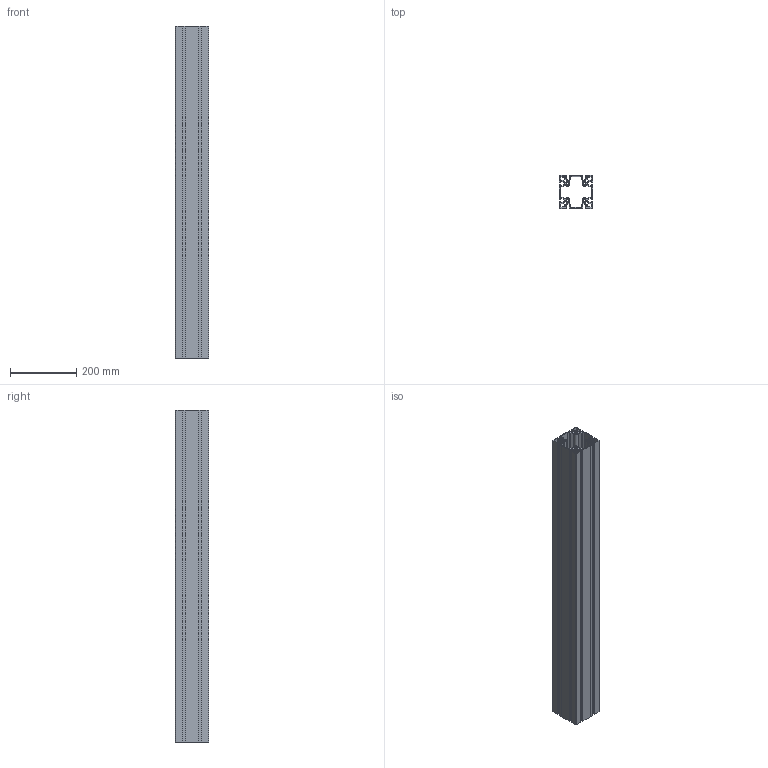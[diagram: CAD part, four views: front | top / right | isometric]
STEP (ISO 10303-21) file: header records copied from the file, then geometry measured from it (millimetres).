
FILE_DESCRIPTION(/* description */ (''),/* implementation_level */ '2;1');
FILE_NAME(/* name */ 'C:\Users\AMS43\Documents\Inventor\AMS\misumi\\X2\30D530EC30FC30E0\X0\_ipt\フレーム_stp\AFS-100100C-8.ipt.stp',/* time_stamp */ '2016-10-06T11:43:28+09:00',/* author */ ('AMS43'),/* organization */ (''),/* preprocessor_version */ 'ST-DEVELOPER v15.2',/* originating_system */ 'Autodesk Inventor 2014',/* authorisation */ '');
FILE_SCHEMA (('AUTOMOTIVE_DESIGN { 1 0 10303 214 3 1 1 }'));
Length unit declared in the file: metre
Products named in the file (1): AFS-100100C-8
Bounding box: 100 x 100 x 1000 mm (x, y, z)
Volume: 2147147.3 mm3; surface area: 1465326 mm2
Topology: 1 solids, 1 shells, 234 faces, 696 edges, 464 vertices
Faces by surface type: plane 162, cylinder 72
Full cylindrical faces by diameter (mm): 8.5 x4
Entity records: 7871 total; most frequent: CARTESIAN_POINT 1391, ORIENTED_EDGE 1384, DIRECTION 1306, EDGE_CURVE 692, LINE 548, VECTOR 548, VERTEX_POINT 464, AXIS2_PLACEMENT_3D 379
